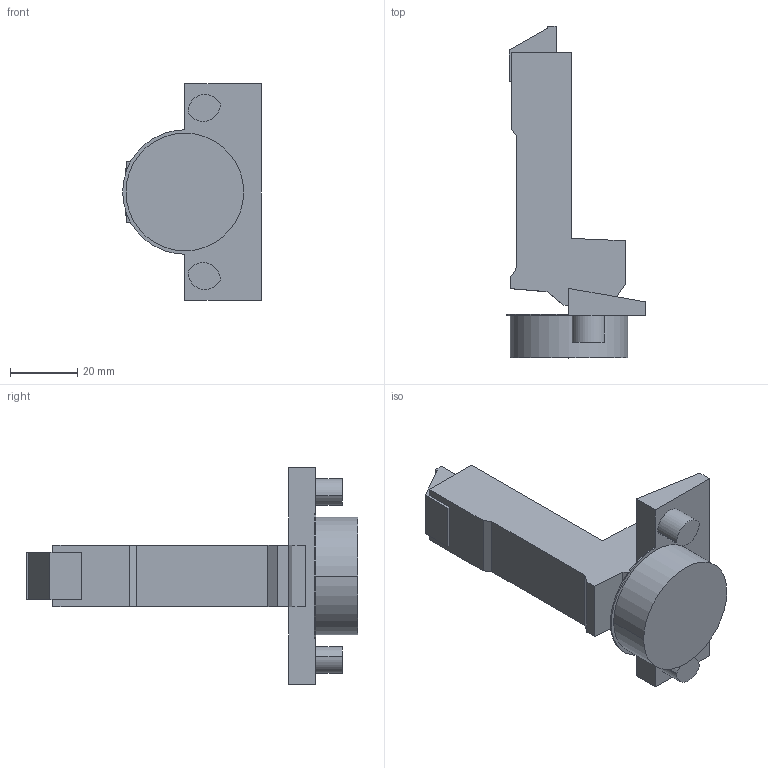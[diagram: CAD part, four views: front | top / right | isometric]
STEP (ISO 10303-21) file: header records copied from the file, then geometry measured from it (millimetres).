
FILE_DESCRIPTION (( 'STEP AP214' ), '1' );
FILE_NAME ('Scharnier TT Impresso 110° HS_BB, K19.step', '2018-09-12T09:11:35', ( '' ), ( '' ), 'SwSTEP 2.0', 'SolidWorks 2017', '' );
FILE_SCHEMA (( 'AUTOMOTIVE_DESIGN' ));
Length unit declared in the file: millimetre
Products named in the file (1): Scharnier TT Impresso 110° HS_BB, K19
Bounding box: 41.25 x 98.7 x 64.5 mm (x, y, z)
Volume: 49758 mm3; surface area: 13481.3 mm2
Topology: 1 solids, 1 shells, 55 faces, 141 edges, 94 vertices
Faces by surface type: plane 39, cylinder 16
Entity records: 1701 total; most frequent: CARTESIAN_POINT 291, DIRECTION 285, ORIENTED_EDGE 282, EDGE_CURVE 141, LINE 109, VECTOR 109, VERTEX_POINT 94, AXIS2_PLACEMENT_3D 88
